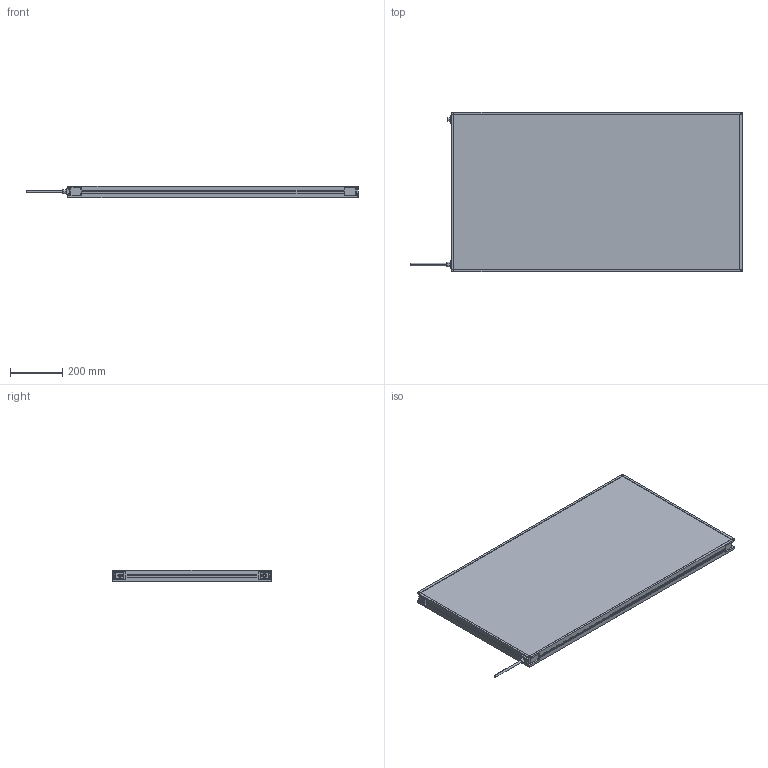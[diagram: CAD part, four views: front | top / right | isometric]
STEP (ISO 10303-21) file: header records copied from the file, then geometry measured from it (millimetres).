
FILE_DESCRIPTION (( 'STEP AP214' ), '1' );
FILE_NAME ('MBACK-xxxx-xxx-M1A2_CLIENT600x1100.STEP', '2022-04-01T11:45:12', ( '' ), ( '' ), 'SwSTEP 2.0', 'SolidWorks 2020', '' );
FILE_SCHEMA (( 'AUTOMOTIVE_DESIGN' ));
Length unit declared in the file: millimetre
Products named in the file (1): MBACK-xxxx-xxx-M1A2_CLIENT600x1100
Bounding box: 1267.4 x 608 x 45.5 mm (x, y, z)
Volume: 28067509.1 mm3; surface area: 1581223.3 mm2
Topology: 1 solids, 1 shells, 470 faces, 1210 edges, 804 vertices
Faces by surface type: plane 265, cylinder 117, bspline 80, cone 8
Entity records: 18046 total; most frequent: CARTESIAN_POINT 6837, ORIENTED_EDGE 2420, DIRECTION 2082, EDGE_CURVE 1210, VERTEX_POINT 804, VECTOR 800, LINE 800, AXIS2_PLACEMENT_3D 641
